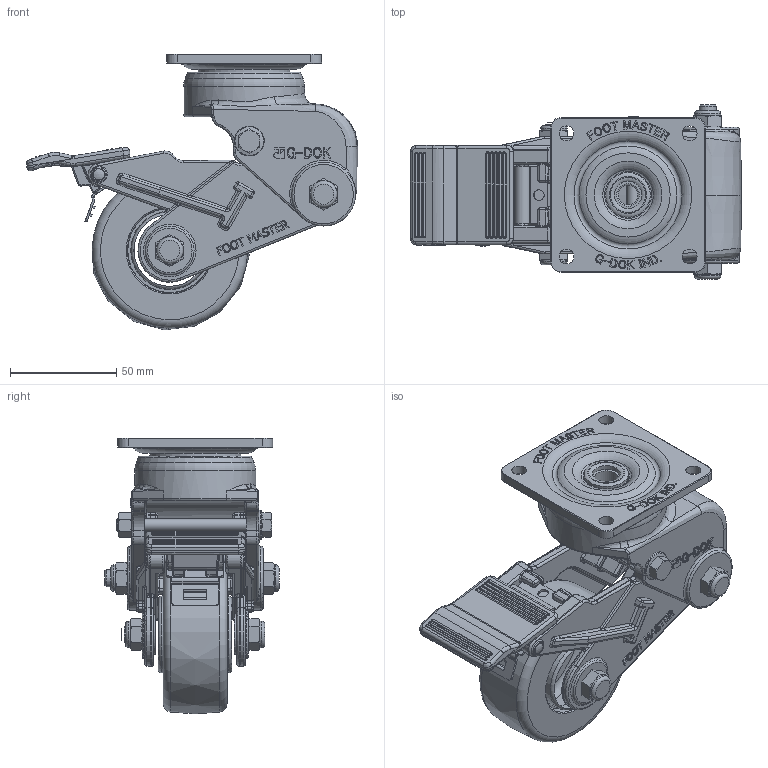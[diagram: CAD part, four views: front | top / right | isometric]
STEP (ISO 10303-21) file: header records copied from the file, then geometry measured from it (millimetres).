
FILE_DESCRIPTION(/* description */ (''),/* implementation_level */ '2;1');
FILE_NAME(/* name */ '\\192.168.10.38\지덕공유\1.기술연구소\2.연구개발 진행중\135.GDS-75_브레이크 검토건_2025.11.20\1.도면\2.3D\홈페이지용\2026.8.13\새 폴더\GDS-75-BSF F TYPE_20260813.stp',/* time_stamp */ '2026-08-13T14:41:30+09:00',/* author */ ('admin'),/* organization */ (''),/* preprocessor_version */ 'ST-DEVELOPER v18.1',/* originating_system */ 'Autodesk Inventor 2021',/* authorisation */ '');
FILE_SCHEMA (('AUTOMOTIVE_DESIGN { 1 0 10303 214 3 1 1 }'));
Products named in the file (1): GDS-75-BSF F TYPE_20260813
Bounding box: 156.05 x 82 x 129.93 mm (x, y, z)
Volume: 336044.4 mm3; surface area: 93450.5 mm2
Topology: 1 solids, 1 shells, 2395 faces, 5975 edges, 3639 vertices
Faces by surface type: plane 833, bspline 720, cylinder 531, cone 140, torus 102, sphere 69
Full cylindrical faces by diameter (mm): 2.5 x1, 4 x1, 4.2 x2, 5 x1, 6 x2, 7 x4, 7.95 x2, 9.3 x1, 10 x1, 10.7 x1, 10.8 x3, 11.6 x1, 12.5 x4, 13 x1, 14 x1, 21 x1, 43 x1, 57 x1
Entity records: 95098 total; most frequent: CARTESIAN_POINT 42023, ORIENTED_EDGE 11830, DIRECTION 9709, EDGE_CURVE 5915, VERTEX_POINT 3639, AXIS2_PLACEMENT_3D 3435, LINE 2839, VECTOR 2839
